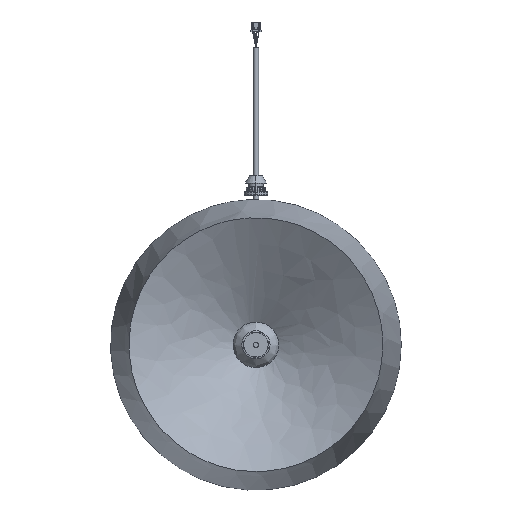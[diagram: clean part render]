
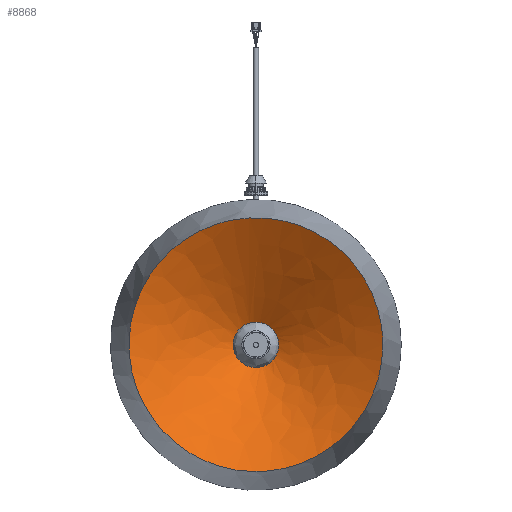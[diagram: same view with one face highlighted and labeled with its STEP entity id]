
A CAD part, top view. The second image highlights one B-rep face of the part: STEP entity #8868.
In plain terms, the highlighted face is a revolution surface.
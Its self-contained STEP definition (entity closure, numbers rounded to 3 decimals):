
#4810=SURFACE_OF_REVOLUTION('',#15862,#4813);
#4813=AXIS1_PLACEMENT('',#60978,#45590);
#5042=FACE_BOUND('',#13744,.T.);
#5043=FACE_BOUND('',#13745,.T.);
#8868=ADVANCED_FACE('',(#5042,#5043),#4810,.T.);
#13744=EDGE_LOOP('',(#21849));
#13745=EDGE_LOOP('',(#21850));
#15862=LINE('',#60977,#17389);
#17389=VECTOR('',#45589,131.882);
#21849=ORIENTED_EDGE('',*,*,#33490,.F.);
#21850=ORIENTED_EDGE('',*,*,#33491,.F.);
#29833=VERTEX_POINT('',#60945);
#29834=VERTEX_POINT('',#60976);
#33490=EDGE_CURVE('',#29833,#29833,#37386,.T.);
#33491=EDGE_CURVE('',#29834,#29834,#37387,.T.);
#37386=B_SPLINE_CURVE_WITH_KNOTS('',3,(#60879,#60880,#60881,#60882,#60883,
#60884,#60885,#60886,#60887,#60888,#60889,#60890,#60891,#60892,#60893,#60894,
#60895,#60896,#60897,#60898,#60899,#60900,#60901,#60902,#60903,#60904,#60905,
#60906,#60907,#60908,#60909,#60910,#60911,#60912,#60913,#60914,#60915,#60916,
#60917,#60918,#60919,#60920,#60921,#60922,#60923,#60924,#60925,#60926,#60927,
#60928,#60929,#60930,#60931,#60932,#60933,#60934,#60935,#60936,#60937,#60938,
#60939,#60940,#60941,#60942,#60943,#60944),.UNSPECIFIED.,.T.,.F.,(2,2,2,
2,2,2,2,2,2,2,2,2,2,2,2,2,2,2,2,2,2,2,2,2,2,2,2,2,2,2,2,2,2,2,2),(-0.031,
0.,0.031,0.063,0.094,0.125,0.156,0.188,0.219,0.25,0.281,0.313,
0.344,0.375,0.406,0.438,0.469,0.5,0.531,0.563,0.594,0.625,0.656,
0.688,0.719,0.75,0.781,0.813,0.844,0.875,0.906,0.938,0.969,
1.,1.031),.UNSPECIFIED.);
#37387=B_SPLINE_CURVE_WITH_KNOTS('',3,(#60946,#60947,#60948,#60949,#60950,
#60951,#60952,#60953,#60954,#60955,#60956,#60957,#60958,#60959,#60960,#60961,
#60962,#60963,#60964,#60965,#60966,#60967,#60968,#60969,#60970,#60971,#60972,
#60973,#60974,#60975),.UNSPECIFIED.,.T.,.F.,(2,2,2,2,2,2,2,2,2,2,2,2,2,
2,2,2,2),(-0.063,0.,0.063,0.125,0.188,0.25,0.375,0.438,0.5,0.563,0.625,
0.75,0.813,0.875,0.938,1.,1.063),.UNSPECIFIED.);
#45589=DIRECTION('',(0.,0.858,0.514));
#45590=DIRECTION('',(0.,0.,-1.));
#60879=CARTESIAN_POINT('',(119.9,7.921,112.402));
#60880=CARTESIAN_POINT('',(119.9,-7.921,112.402));
#60881=CARTESIAN_POINT('',(119.122,-15.71,112.402));
#60882=CARTESIAN_POINT('',(116.077,-31.034,112.402));
#60883=CARTESIAN_POINT('',(113.772,-38.648,112.402));
#60884=CARTESIAN_POINT('',(107.754,-53.168,112.402));
#60885=CARTESIAN_POINT('',(104.071,-60.055,112.402));
#60886=CARTESIAN_POINT('',(95.37,-73.088,112.402));
#60887=CARTESIAN_POINT('',(90.306,-79.259,112.402));
#60888=CARTESIAN_POINT('',(79.243,-90.32,112.402));
#60889=CARTESIAN_POINT('',(73.207,-95.283,112.402));
#60890=CARTESIAN_POINT('',(60.1,-104.048,112.402));
#60891=CARTESIAN_POINT('',(53.121,-107.773,112.402));
#60892=CARTESIAN_POINT('',(38.694,-113.753,112.402));
#60893=CARTESIAN_POINT('',(31.139,-116.054,112.402));
#60894=CARTESIAN_POINT('',(15.662,-119.134,112.402));
#60895=CARTESIAN_POINT('',(7.883,-119.895,112.402));
#60896=CARTESIAN_POINT('',(-7.756,-119.904,112.402));
#60897=CARTESIAN_POINT('',(-15.698,-119.126,112.402));
#60898=CARTESIAN_POINT('',(-31.075,-116.068,112.402));
#60899=CARTESIAN_POINT('',(-38.549,-113.805,112.402));
#60900=CARTESIAN_POINT('',(-53.066,-107.804,112.402));
#60901=CARTESIAN_POINT('',(-60.088,-104.05,112.402));
#60902=CARTESIAN_POINT('',(-73.083,-95.372,112.402));
#60903=CARTESIAN_POINT('',(-79.14,-90.418,112.402));
#60904=CARTESIAN_POINT('',(-90.337,-79.233,112.402));
#60905=CARTESIAN_POINT('',(-95.31,-73.164,112.402));
#60906=CARTESIAN_POINT('',(-103.996,-60.181,112.402));
#60907=CARTESIAN_POINT('',(-107.75,-53.176,112.402));
#60908=CARTESIAN_POINT('',(-113.772,-38.647,112.402));
#60909=CARTESIAN_POINT('',(-116.041,-31.173,112.402));
#60910=CARTESIAN_POINT('',(-119.11,-15.813,112.402));
#60911=CARTESIAN_POINT('',(-119.897,-7.867,112.402));
#60912=CARTESIAN_POINT('',(-119.902,7.782,112.402));
#60913=CARTESIAN_POINT('',(-119.146,15.559,112.402));
#60914=CARTESIAN_POINT('',(-116.087,31.013,112.402));
#60915=CARTESIAN_POINT('',(-113.786,38.595,112.402));
#60916=CARTESIAN_POINT('',(-107.819,53.028,112.402));
#60917=CARTESIAN_POINT('',(-104.115,59.986,112.402));
#60918=CARTESIAN_POINT('',(-95.348,73.124,112.402));
#60919=CARTESIAN_POINT('',(-90.386,79.167,112.402));
#60920=CARTESIAN_POINT('',(-79.342,90.232,112.402));
#60921=CARTESIAN_POINT('',(-73.182,95.299,112.402));
#60922=CARTESIAN_POINT('',(-60.143,104.021,112.402));
#60923=CARTESIAN_POINT('',(-53.259,107.708,112.402));
#60924=CARTESIAN_POINT('',(-38.763,113.732,112.402));
#60925=CARTESIAN_POINT('',(-31.138,116.049,112.402));
#60926=CARTESIAN_POINT('',(-15.811,119.109,112.402));
#60927=CARTESIAN_POINT('',(-8.028,119.891,112.402));
#60928=CARTESIAN_POINT('',(7.783,119.908,112.402));
#60929=CARTESIAN_POINT('',(15.608,119.135,112.402));
#60930=CARTESIAN_POINT('',(30.931,116.104,112.402));
#60931=CARTESIAN_POINT('',(38.53,113.813,112.402));
#60932=CARTESIAN_POINT('',(53.076,107.8,112.402));
#60933=CARTESIAN_POINT('',(59.967,104.121,112.402));
#60934=CARTESIAN_POINT('',(72.996,95.439,112.402));
#60935=CARTESIAN_POINT('',(79.175,90.38,112.402));
#60936=CARTESIAN_POINT('',(90.253,79.319,112.402));
#60937=CARTESIAN_POINT('',(95.219,73.288,112.402));
#60938=CARTESIAN_POINT('',(103.983,60.211,112.402));
#60939=CARTESIAN_POINT('',(107.727,53.215,112.402));
#60940=CARTESIAN_POINT('',(113.719,38.791,112.402));
#60941=CARTESIAN_POINT('',(116.019,31.275,112.402));
#60942=CARTESIAN_POINT('',(119.122,15.76,112.402));
#60943=CARTESIAN_POINT('',(119.9,7.921,112.402));
#60944=CARTESIAN_POINT('',(119.9,-7.921,112.402));
#60945=CARTESIAN_POINT('',(119.9,0.,112.402));
#60946=CARTESIAN_POINT('',(-3.535,21.367,52.926));
#60947=CARTESIAN_POINT('',(-8.964,19.713,52.926));
#60948=CARTESIAN_POINT('',(-11.484,18.354,52.925));
#60949=CARTESIAN_POINT('',(-15.814,14.787,52.925));
#60950=CARTESIAN_POINT('',(-17.635,12.558,52.925));
#60951=CARTESIAN_POINT('',(-20.265,7.619,52.925));
#60952=CARTESIAN_POINT('',(-21.098,4.859,52.925));
#60953=CARTESIAN_POINT('',(-21.64,-0.713,52.926));
#60954=CARTESIAN_POINT('',(-21.357,-3.573,52.927));
#60955=CARTESIAN_POINT('',(-18.903,-11.635,52.929));
#60956=CARTESIAN_POINT('',(-15.075,-16.305,52.93));
#60957=CARTESIAN_POINT('',(-7.601,-20.288,52.933));
#60958=CARTESIAN_POINT('',(-4.864,-21.111,52.934));
#60959=CARTESIAN_POINT('',(0.722,-21.654,52.935));
#60960=CARTESIAN_POINT('',(3.585,-21.367,52.935));
#60961=CARTESIAN_POINT('',(8.939,-19.738,52.936));
#60962=CARTESIAN_POINT('',(11.48,-18.377,52.937));
#60963=CARTESIAN_POINT('',(15.805,-14.823,52.937));
#60964=CARTESIAN_POINT('',(17.63,-12.601,52.937));
#60965=CARTESIAN_POINT('',(21.598,-5.171,52.937));
#60966=CARTESIAN_POINT('',(22.2,0.835,52.936));
#60967=CARTESIAN_POINT('',(19.735,8.945,52.934));
#60968=CARTESIAN_POINT('',(18.384,11.46,52.933));
#60969=CARTESIAN_POINT('',(14.819,15.799,52.932));
#60970=CARTESIAN_POINT('',(12.594,17.621,52.931));
#60971=CARTESIAN_POINT('',(7.657,20.257,52.929));
#60972=CARTESIAN_POINT('',(4.898,21.094,52.928));
#60973=CARTESIAN_POINT('',(-0.672,21.642,52.927));
#60974=CARTESIAN_POINT('',(-3.535,21.367,52.926));
#60975=CARTESIAN_POINT('',(-8.964,19.713,52.926));
#60976=CARTESIAN_POINT('',(-6.249,20.54,52.926));
#60977=CARTESIAN_POINT('',(-6.25,6.628,44.585));
#60978=CARTESIAN_POINT('',(0.,0.,23.59));
